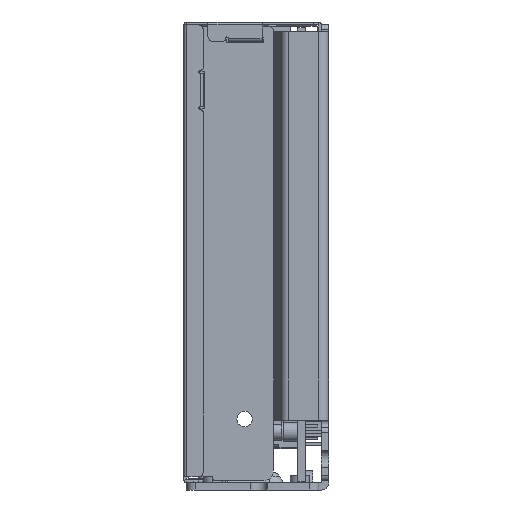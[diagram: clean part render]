
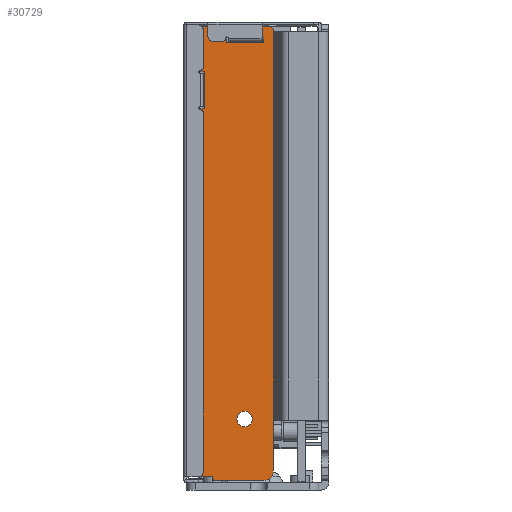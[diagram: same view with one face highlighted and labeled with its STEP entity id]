
A CAD part, left-side view. The second image highlights one B-rep face of the part: STEP entity #30729.
In plain terms, the highlighted planar face has unit normal (-1, 0, 0).
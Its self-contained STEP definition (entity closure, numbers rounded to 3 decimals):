
#7154=DIRECTION('',(0.,0.,1.));
#7155=VECTOR('',#7154,80.5);
#7156=CARTESIAN_POINT('',(-57.5,11.414,-33.75));
#7157=LINE('',#7156,#7155);
#7226=CARTESIAN_POINT('',(-57.5,23.6,-45.75));
#7227=DIRECTION('',(1.,0.,0.));
#7228=DIRECTION('',(0.,0.,-1.));
#7229=AXIS2_PLACEMENT_3D('',#7226,#7227,#7228);
#7234=DIRECTION('',(0.,1.,0.));
#7235=VECTOR('',#7234,3.);
#7236=CARTESIAN_POINT('',(-57.5,24.1,-45.55));
#7237=LINE('',#7236,#7235);
#7241=CARTESIAN_POINT('',(-57.5,27.1,-43.55));
#7242=DIRECTION('',(1.,0.,0.));
#7243=DIRECTION('',(0.,0.,-1.));
#7244=AXIS2_PLACEMENT_3D('',#7241,#7242,#7243);
#7249=DIRECTION('',(0.,0.,1.));
#7250=VECTOR('',#7249,89.4);
#7251=CARTESIAN_POINT('',(-57.5,29.1,-43.55));
#7252=LINE('',#7251,#7250);
#7256=CARTESIAN_POINT('',(-57.5,27.1,45.85));
#7257=DIRECTION('',(1.,0.,0.));
#7258=DIRECTION('',(0.,1.,0.));
#7259=AXIS2_PLACEMENT_3D('',#7256,#7257,#7258);
#7264=DIRECTION('',(0.,-1.,0.));
#7265=VECTOR('',#7264,14.686);
#7266=CARTESIAN_POINT('',(-57.5,27.1,47.85));
#7267=LINE('',#7266,#7265);
#7271=CARTESIAN_POINT('',(-57.5,12.414,46.85));
#7272=DIRECTION('',(1.,0.,0.));
#7273=DIRECTION('',(0.,0.,1.));
#7274=AXIS2_PLACEMENT_3D('',#7271,#7272,#7273);
#7279=DIRECTION('',(0.,0.,-1.));
#7280=VECTOR('',#7279,0.1);
#7281=CARTESIAN_POINT('',(-57.5,11.414,46.85));
#7282=LINE('',#7281,#7280);
#7286=DIRECTION('',(0.,0.,-1.));
#7287=VECTOR('',#7286,10.5);
#7288=CARTESIAN_POINT('',(-57.5,11.414,-33.75));
#7289=LINE('',#7288,#7287);
#7293=CARTESIAN_POINT('',(-57.5,13.414,-44.25));
#7294=DIRECTION('',(1.,0.,0.));
#7295=DIRECTION('',(0.,-1.,0.));
#7296=AXIS2_PLACEMENT_3D('',#7293,#7294,#7295);
#7301=DIRECTION('',(0.,0.,-1.));
#7302=VECTOR('',#7301,7.8);
#7303=CARTESIAN_POINT('',(-57.5,26.7,38.55));
#7304=LINE('',#7303,#7302);
#7308=DIRECTION('',(0.,-1.,0.));
#7309=VECTOR('',#7308,1.);
#7310=CARTESIAN_POINT('',(-57.5,26.7,30.75));
#7311=LINE('',#7310,#7309);
#7315=DIRECTION('',(0.,0.,1.));
#7316=VECTOR('',#7315,7.8);
#7317=CARTESIAN_POINT('',(-57.5,25.7,30.75));
#7318=LINE('',#7317,#7316);
#7322=DIRECTION('',(0.,1.,0.));
#7323=VECTOR('',#7322,1.);
#7324=CARTESIAN_POINT('',(-57.5,25.7,38.55));
#7325=LINE('',#7324,#7323);
#7329=DIRECTION('',(0.,0.,-1.));
#7330=VECTOR('',#7329,1.);
#7331=CARTESIAN_POINT('',(-57.5,21.2,45.45));
#7332=LINE('',#7331,#7330);
#7336=DIRECTION('',(0.,-1.,0.));
#7337=VECTOR('',#7336,7.8);
#7338=CARTESIAN_POINT('',(-57.5,21.2,44.45));
#7339=LINE('',#7338,#7337);
#7343=DIRECTION('',(0.,0.,1.));
#7344=VECTOR('',#7343,1.);
#7345=CARTESIAN_POINT('',(-57.5,13.4,44.45));
#7346=LINE('',#7345,#7344);
#7350=DIRECTION('',(0.,1.,0.));
#7351=VECTOR('',#7350,7.8);
#7352=CARTESIAN_POINT('',(-57.5,13.4,45.45));
#7353=LINE('',#7352,#7351);
#7357=CARTESIAN_POINT('',(-57.5,17.4,-33.55));
#7358=DIRECTION('',(-1.,0.,0.));
#7359=DIRECTION('',(0.,0.,-1.));
#7360=AXIS2_PLACEMENT_3D('',#7357,#7358,#7359);
#7365=CARTESIAN_POINT('',(-57.5,17.4,-33.55));
#7366=DIRECTION('',(-1.,0.,0.));
#7367=DIRECTION('',(0.,0.,1.));
#7368=AXIS2_PLACEMENT_3D('',#7365,#7366,#7367);
#7387=DIRECTION('',(0.,-1.,0.));
#7388=VECTOR('',#7387,10.186);
#7389=CARTESIAN_POINT('',(-57.5,23.6,-46.25));
#7390=LINE('',#7389,#7388);
#7541=DIRECTION('',(0.,0.,-1.));
#7542=VECTOR('',#7541,0.2);
#7543=CARTESIAN_POINT('',(-57.5,24.1,-45.55));
#7544=LINE('',#7543,#7542);
#24311=CARTESIAN_POINT('',(-57.5,11.414,46.75));
#24312=VERTEX_POINT('',#24311);
#24313=CARTESIAN_POINT('',(-57.5,11.414,-33.75));
#24314=VERTEX_POINT('',#24313);
#24315=CARTESIAN_POINT('',(-57.5,11.414,-44.25));
#24317=VERTEX_POINT('',#24315);
#24319=CARTESIAN_POINT('',(-57.5,13.414,-46.25));
#24320=VERTEX_POINT('',#24319);
#24323=CARTESIAN_POINT('',(-57.5,23.6,-46.25));
#24324=CARTESIAN_POINT('',(-57.5,24.1,-45.75));
#24325=VERTEX_POINT('',#24323);
#24326=VERTEX_POINT('',#24324);
#24327=CARTESIAN_POINT('',(-57.5,24.1,-45.55));
#24328=VERTEX_POINT('',#24327);
#24329=CARTESIAN_POINT('',(-57.5,27.1,-45.55));
#24330=VERTEX_POINT('',#24329);
#24331=CARTESIAN_POINT('',(-57.5,29.1,-43.55));
#24332=VERTEX_POINT('',#24331);
#24333=CARTESIAN_POINT('',(-57.5,29.1,45.85));
#24334=VERTEX_POINT('',#24333);
#24335=CARTESIAN_POINT('',(-57.5,27.1,47.85));
#24336=VERTEX_POINT('',#24335);
#24337=CARTESIAN_POINT('',(-57.5,12.414,47.85));
#24338=VERTEX_POINT('',#24337);
#24339=CARTESIAN_POINT('',(-57.5,11.414,46.85));
#24340=VERTEX_POINT('',#24339);
#24341=CARTESIAN_POINT('',(-57.5,26.7,38.55));
#24342=CARTESIAN_POINT('',(-57.5,26.7,30.75));
#24343=VERTEX_POINT('',#24341);
#24344=VERTEX_POINT('',#24342);
#24345=CARTESIAN_POINT('',(-57.5,25.7,30.75));
#24346=VERTEX_POINT('',#24345);
#24347=CARTESIAN_POINT('',(-57.5,25.7,38.55));
#24348=VERTEX_POINT('',#24347);
#24349=CARTESIAN_POINT('',(-57.5,21.2,45.45));
#24350=CARTESIAN_POINT('',(-57.5,21.2,44.45));
#24351=VERTEX_POINT('',#24349);
#24352=VERTEX_POINT('',#24350);
#24353=CARTESIAN_POINT('',(-57.5,13.4,44.45));
#24354=VERTEX_POINT('',#24353);
#24355=CARTESIAN_POINT('',(-57.5,13.4,45.45));
#24356=VERTEX_POINT('',#24355);
#24357=CARTESIAN_POINT('',(-57.5,17.4,-35.15));
#24358=CARTESIAN_POINT('',(-57.5,17.4,-31.95));
#24359=VERTEX_POINT('',#24357);
#24360=VERTEX_POINT('',#24358);
#30673=CARTESIAN_POINT('',(-57.5,11.414,-46.25));
#30674=DIRECTION('',(1.,0.,0.));
#30675=DIRECTION('',(0.,1.,0.));
#30676=AXIS2_PLACEMENT_3D('',#30673,#30674,#30675);
#30677=PLANE('',#30676);
#30679=ORIENTED_EDGE('',*,*,#30678,.T.);
#30681=ORIENTED_EDGE('',*,*,#30680,.F.);
#30683=ORIENTED_EDGE('',*,*,#30682,.T.);
#30685=ORIENTED_EDGE('',*,*,#30684,.T.);
#30687=ORIENTED_EDGE('',*,*,#30686,.T.);
#30689=ORIENTED_EDGE('',*,*,#30688,.T.);
#30691=ORIENTED_EDGE('',*,*,#30690,.T.);
#30693=ORIENTED_EDGE('',*,*,#30692,.T.);
#30695=ORIENTED_EDGE('',*,*,#30694,.T.);
#30696=ORIENTED_EDGE('',*,*,#30623,.F.);
#30697=ORIENTED_EDGE('',*,*,#30650,.T.);
#30698=ORIENTED_EDGE('',*,*,#30663,.T.);
#30700=ORIENTED_EDGE('',*,*,#30699,.F.);
#30701=EDGE_LOOP('',(#30679,#30681,#30683,#30685,#30687,#30689,#30691,#30693,
#30695,#30696,#30697,#30698,#30700));
#30702=FACE_OUTER_BOUND('',#30701,.F.);
#30704=ORIENTED_EDGE('',*,*,#30703,.T.);
#30706=ORIENTED_EDGE('',*,*,#30705,.T.);
#30708=ORIENTED_EDGE('',*,*,#30707,.T.);
#30710=ORIENTED_EDGE('',*,*,#30709,.T.);
#30711=EDGE_LOOP('',(#30704,#30706,#30708,#30710));
#30712=FACE_BOUND('',#30711,.F.);
#30714=ORIENTED_EDGE('',*,*,#30713,.T.);
#30716=ORIENTED_EDGE('',*,*,#30715,.T.);
#30718=ORIENTED_EDGE('',*,*,#30717,.T.);
#30720=ORIENTED_EDGE('',*,*,#30719,.T.);
#30721=EDGE_LOOP('',(#30714,#30716,#30718,#30720));
#30722=FACE_BOUND('',#30721,.F.);
#30724=ORIENTED_EDGE('',*,*,#30723,.T.);
#30726=ORIENTED_EDGE('',*,*,#30725,.T.);
#30727=EDGE_LOOP('',(#30724,#30726));
#30728=FACE_BOUND('',#30727,.F.);
#7230=CIRCLE('',#7229,0.5);
#7245=CIRCLE('',#7244,2.);
#7260=CIRCLE('',#7259,2.);
#7275=CIRCLE('',#7274,1.);
#7297=CIRCLE('',#7296,2.);
#7361=CIRCLE('',#7360,1.6);
#7369=CIRCLE('',#7368,1.6);
#30623=EDGE_CURVE('',#24314,#24312,#7157,.T.);
#30650=EDGE_CURVE('',#24314,#24317,#7289,.T.);
#30663=EDGE_CURVE('',#24317,#24320,#7297,.T.);
#30678=EDGE_CURVE('',#24325,#24326,#7230,.T.);
#30680=EDGE_CURVE('',#24328,#24326,#7544,.T.);
#30682=EDGE_CURVE('',#24328,#24330,#7237,.T.);
#30684=EDGE_CURVE('',#24330,#24332,#7245,.T.);
#30686=EDGE_CURVE('',#24332,#24334,#7252,.T.);
#30688=EDGE_CURVE('',#24334,#24336,#7260,.T.);
#30690=EDGE_CURVE('',#24336,#24338,#7267,.T.);
#30692=EDGE_CURVE('',#24338,#24340,#7275,.T.);
#30694=EDGE_CURVE('',#24340,#24312,#7282,.T.);
#30699=EDGE_CURVE('',#24325,#24320,#7390,.T.);
#30703=EDGE_CURVE('',#24343,#24344,#7304,.T.);
#30705=EDGE_CURVE('',#24344,#24346,#7311,.T.);
#30707=EDGE_CURVE('',#24346,#24348,#7318,.T.);
#30709=EDGE_CURVE('',#24348,#24343,#7325,.T.);
#30713=EDGE_CURVE('',#24351,#24352,#7332,.T.);
#30715=EDGE_CURVE('',#24352,#24354,#7339,.T.);
#30717=EDGE_CURVE('',#24354,#24356,#7346,.T.);
#30719=EDGE_CURVE('',#24356,#24351,#7353,.T.);
#30723=EDGE_CURVE('',#24359,#24360,#7361,.T.);
#30725=EDGE_CURVE('',#24360,#24359,#7369,.T.);
#30729=ADVANCED_FACE('',(#30702,#30712,#30722,#30728),#30677,.F.);
